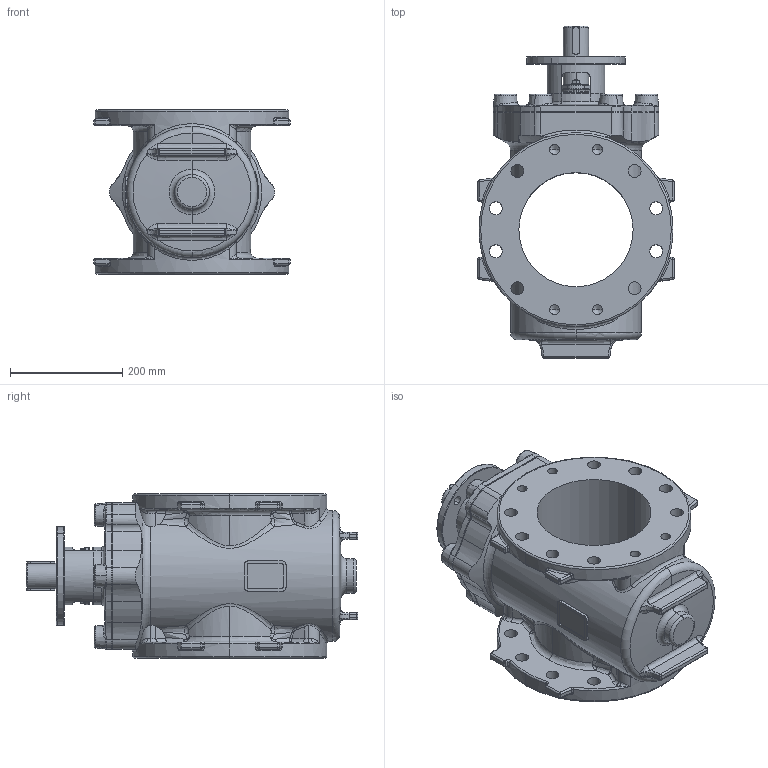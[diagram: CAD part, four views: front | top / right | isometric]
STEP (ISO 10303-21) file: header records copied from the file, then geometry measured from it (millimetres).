
FILE_DESCRIPTION (( 'STEP AP203' ), '1' );
FILE_NAME ('O_764_01_DN200_1XXXXXX000_REV02.step', '2021-02-03T08:58:33', ( '' ), ( '' ), 'SwSTEP 2.0', 'SolidWorks 2019', '' );
FILE_SCHEMA (( 'CONFIG_CONTROL_DESIGN' ));
Length unit declared in the file: millimetre
Products named in the file (1): O_764_01_DN200_1XXXXXX000_REV02
Bounding box: 349 x 590.5 x 292 mm (x, y, z)
Volume: 17117879.8 mm3; surface area: 948979.6 mm2
Topology: 1 solids, 1 shells, 888 faces, 2184 edges, 1258 vertices
Faces by surface type: cylinder 297, plane 173, bspline 172, torus 123, cone 83, sphere 40
Entity records: 39933 total; most frequent: CARTESIAN_POINT 20324, ORIENTED_EDGE 4240, DIRECTION 3987, EDGE_CURVE 2120, AXIS2_PLACEMENT_3D 1680, VERTEX_POINT 1258, EDGE_LOOP 966, CIRCLE 963
